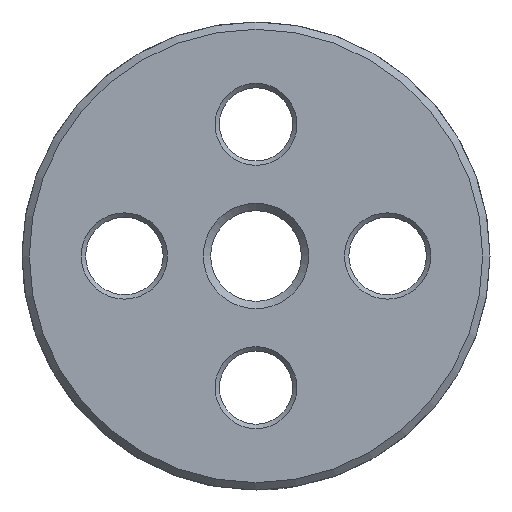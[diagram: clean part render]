
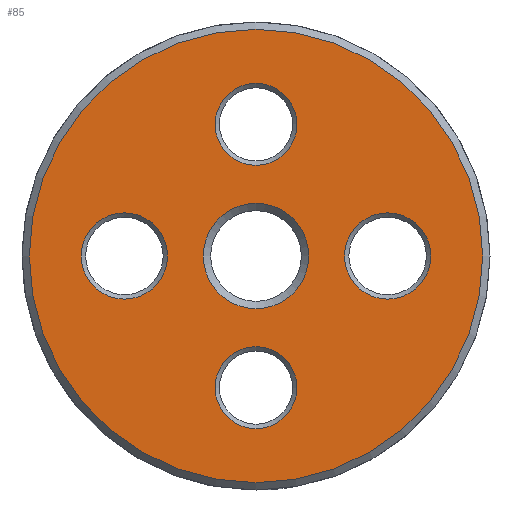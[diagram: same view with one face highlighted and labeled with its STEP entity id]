
A CAD part, front view. The second image highlights one B-rep face of the part: STEP entity #85.
In plain terms, the highlighted planar face has unit normal (0, -1, 0).
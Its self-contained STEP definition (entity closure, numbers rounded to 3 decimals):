
#85 = ADVANCED_FACE( '', ( #138, #139, #140, #141, #142, #143 ), #144, .F. );
#138 = FACE_BOUND( '', #237, .T. );
#139 = FACE_BOUND( '', #238, .T. );
#140 = FACE_BOUND( '', #239, .T. );
#141 = FACE_BOUND( '', #240, .T. );
#142 = FACE_BOUND( '', #241, .T. );
#143 = FACE_OUTER_BOUND( '', #242, .T. );
#144 = PLANE( '', #243 );
#237 = EDGE_LOOP( '', ( #403 ) );
#238 = EDGE_LOOP( '', ( #404 ) );
#239 = EDGE_LOOP( '', ( #405 ) );
#240 = EDGE_LOOP( '', ( #406 ) );
#241 = EDGE_LOOP( '', ( #407 ) );
#242 = EDGE_LOOP( '', ( #408 ) );
#243 = AXIS2_PLACEMENT_3D( '', #409, #410, #411 );
#403 = ORIENTED_EDGE( '', *, *, #612, .F. );
#404 = ORIENTED_EDGE( '', *, *, #613, .F. );
#405 = ORIENTED_EDGE( '', *, *, #614, .F. );
#406 = ORIENTED_EDGE( '', *, *, #615, .F. );
#407 = ORIENTED_EDGE( '', *, *, #616, .F. );
#408 = ORIENTED_EDGE( '', *, *, #601, .T. );
#409 = CARTESIAN_POINT( '', ( 15.5, 0., 0. ) );
#410 = DIRECTION( '', ( 0., 1., 0. ) );
#411 = DIRECTION( '', ( 0., 0., 1. ) );
#601 = EDGE_CURVE( '', #704, #704, #705, .T. );
#612 = EDGE_CURVE( '', #723, #723, #724, .T. );
#613 = EDGE_CURVE( '', #725, #725, #726, .F. );
#614 = EDGE_CURVE( '', #727, #727, #728, .T. );
#615 = EDGE_CURVE( '', #729, #729, #730, .T. );
#616 = EDGE_CURVE( '', #731, #731, #732, .T. );
#704 = VERTEX_POINT( '', #937 );
#705 = CIRCLE( '', #938, 15.5 );
#723 = VERTEX_POINT( '', #963 );
#724 = CIRCLE( '', #964, 3.6 );
#725 = VERTEX_POINT( '', #965 );
#726 = CIRCLE( '', #966, 2.95 );
#727 = VERTEX_POINT( '', #967 );
#728 = CIRCLE( '', #968, 2.8 );
#729 = VERTEX_POINT( '', #969 );
#730 = CIRCLE( '', #970, 2.8 );
#731 = VERTEX_POINT( '', #971 );
#732 = CIRCLE( '', #972, 2.95 );
#937 = CARTESIAN_POINT( '', ( 0., 0., -15.5 ) );
#938 = AXIS2_PLACEMENT_3D( '', #1096, #1097, #1098 );
#963 = CARTESIAN_POINT( '', ( 0., 0., -3.6 ) );
#964 = AXIS2_PLACEMENT_3D( '', #1121, #1122, #1123 );
#965 = CARTESIAN_POINT( '', ( 9., 0., 2.95 ) );
#966 = AXIS2_PLACEMENT_3D( '', #1124, #1125, #1126 );
#967 = CARTESIAN_POINT( '', ( 0., 0., 6.2 ) );
#968 = AXIS2_PLACEMENT_3D( '', #1127, #1128, #1129 );
#969 = CARTESIAN_POINT( '', ( 0., 0., -11.8 ) );
#970 = AXIS2_PLACEMENT_3D( '', #1130, #1131, #1132 );
#971 = CARTESIAN_POINT( '', ( -9., 0., -2.95 ) );
#972 = AXIS2_PLACEMENT_3D( '', #1133, #1134, #1135 );
#1096 = CARTESIAN_POINT( '', ( 0., 0., 0. ) );
#1097 = DIRECTION( '', ( 0., -1., 0. ) );
#1098 = DIRECTION( '', ( 0., 0., -1. ) );
#1121 = CARTESIAN_POINT( '', ( 0., 0., 0. ) );
#1122 = DIRECTION( '', ( 0., -1., 0. ) );
#1123 = DIRECTION( '', ( 0., 0., -1. ) );
#1124 = CARTESIAN_POINT( '', ( 9., 0., 0. ) );
#1125 = DIRECTION( '', ( 0., 1., 0. ) );
#1126 = DIRECTION( '', ( 0., 0., 1. ) );
#1127 = CARTESIAN_POINT( '', ( 0., 0., 9. ) );
#1128 = DIRECTION( '', ( 0., -1., 0. ) );
#1129 = DIRECTION( '', ( 0., 0., -1. ) );
#1130 = CARTESIAN_POINT( '', ( 0., 0., -9. ) );
#1131 = DIRECTION( '', ( 0., -1., 0. ) );
#1132 = DIRECTION( '', ( 0., 0., -1. ) );
#1133 = CARTESIAN_POINT( '', ( -9., 0., 0. ) );
#1134 = DIRECTION( '', ( 0., -1., 0. ) );
#1135 = DIRECTION( '', ( 0., 0., -1. ) );
